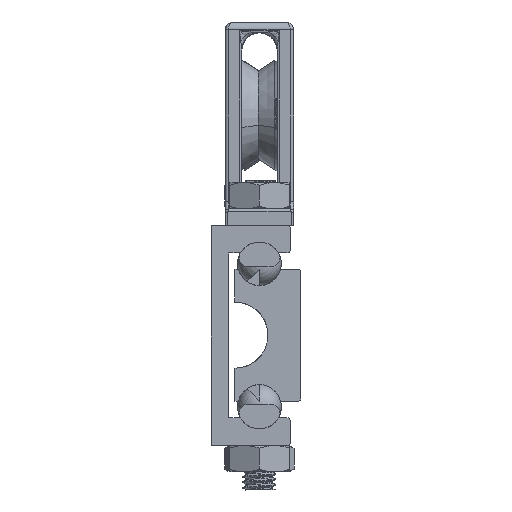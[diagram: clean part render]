
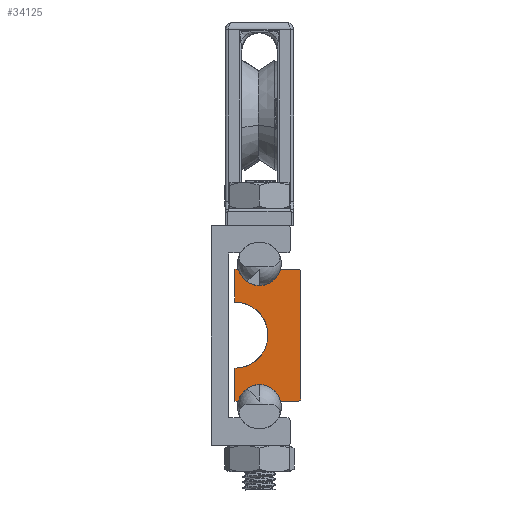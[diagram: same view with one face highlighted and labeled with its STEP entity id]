
A CAD part, front view. The second image highlights one B-rep face of the part: STEP entity #34125.
In plain terms, the highlighted planar face has unit normal (0, -1, 0) as drawn and (0, 1, 0) by its records, which use the part's own axes.
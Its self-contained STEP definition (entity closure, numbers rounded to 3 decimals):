
#706 = VECTOR ( 'NONE', #43261, 1000. ) ;
#732 = DIRECTION ( 'NONE',  ( -1., 0., 0. ) ) ;
#939 = CARTESIAN_POINT ( 'NONE',  ( -3., 304.8, 6. ) ) ;
#957 = CARTESIAN_POINT ( 'NONE',  ( 6., 304.8, 1.854 ) ) ;
#1705 = VERTEX_POINT ( 'NONE', #23211 ) ;
#2229 = CARTESIAN_POINT ( 'NONE',  ( -5.8, 304.8, 0. ) ) ;
#2305 = DIRECTION ( 'NONE',  ( 0., 0., 1. ) ) ;
#2549 = CIRCLE ( 'NONE', #28258, 3. ) ;
#2756 = CARTESIAN_POINT ( 'NONE',  ( 6.485, 304.8, 3.778 ) ) ;
#2773 = CARTESIAN_POINT ( 'NONE',  ( 6., 304.8, 5.703 ) ) ;
#3142 = VERTEX_POINT ( 'NONE', #40833 ) ;
#3183 = LINE ( 'NONE', #31460, #7467 ) ;
#4033 = ORIENTED_EDGE ( 'NONE', *, *, #22704, .F. ) ;
#4367 = AXIS2_PLACEMENT_3D ( 'NONE', #36214, #25872, #39673 ) ;
#4553 = LINE ( 'NONE', #22024, #8724 ) ;
#4750 = EDGE_CURVE ( 'NONE', #19452, #43478, #2549, .T. ) ;
#5337 = CARTESIAN_POINT ( 'NONE',  ( 5.8, 304.8, 0. ) ) ;
#6212 = CIRCLE ( 'NONE', #14301, 3. ) ;
#7261 = LINE ( 'NONE', #17592, #17168 ) ;
#7467 = VECTOR ( 'NONE', #24548, 1000. ) ;
#7931 = DIRECTION ( 'NONE',  ( 1., 0., 0. ) ) ;
#8383 = AXIS2_PLACEMENT_3D ( 'NONE', #15607, #11472, #39536 ) ;
#8724 = VECTOR ( 'NONE', #39040, 1000. ) ;
#8778 = ORIENTED_EDGE ( 'NONE', *, *, #18250, .T. ) ;
#9566 = CARTESIAN_POINT ( 'NONE',  ( 3., 304.8, 6. ) ) ;
#9648 = DIRECTION ( 'NONE',  ( 0., 0., 1. ) ) ;
#9651 = CARTESIAN_POINT ( 'NONE',  ( 6., 304.8, 0. ) ) ;
#9712 = VERTEX_POINT ( 'NONE', #44625 ) ;
#9790 = VERTEX_POINT ( 'NONE', #2773 ) ;
#9850 = CIRCLE ( 'NONE', #8383, 0.2 ) ;
#10586 = DIRECTION ( 'NONE',  ( 0., 0., 1. ) ) ;
#10620 = ORIENTED_EDGE ( 'NONE', *, *, #19269, .F. ) ;
#11472 = DIRECTION ( 'NONE',  ( 0., 1., 0. ) ) ;
#12567 = EDGE_CURVE ( 'NONE', #44413, #3142, #32225, .T. ) ;
#12975 = DIRECTION ( 'NONE',  ( 0., 1., 0. ) ) ;
#13397 = ORIENTED_EDGE ( 'NONE', *, *, #17964, .F. ) ;
#13781 = LINE ( 'NONE', #14237, #24786 ) ;
#13985 = CARTESIAN_POINT ( 'NONE',  ( -6.484, 304.8, 3.778 ) ) ;
#13998 = FACE_OUTER_BOUND ( 'NONE', #15461, .T. ) ;
#14237 = CARTESIAN_POINT ( 'NONE',  ( 6., 304.8, 5.703 ) ) ;
#14301 = AXIS2_PLACEMENT_3D ( 'NONE', #16622, #44233, #41242 ) ;
#14503 = VERTEX_POINT ( 'NONE', #45093 ) ;
#14966 = LINE ( 'NONE', #36118, #706 ) ;
#15097 = ORIENTED_EDGE ( 'NONE', *, *, #4750, .F. ) ;
#15461 = EDGE_LOOP ( 'NONE', ( #24275, #8778, #29617, #41658, #10620, #34335, #41085, #15097, #25630, #30173, #13397, #4033, #35007 ) ) ;
#15607 = CARTESIAN_POINT ( 'NONE',  ( 5.8, 304.8, 0.2 ) ) ;
#16622 = CARTESIAN_POINT ( 'NONE',  ( 0., 304.8, 6. ) ) ;
#16766 = PLANE ( 'NONE',  #25527 ) ;
#17168 = VECTOR ( 'NONE', #7931, 1000. ) ;
#17592 = CARTESIAN_POINT ( 'NONE',  ( -6., 304.8, 0. ) ) ;
#17667 = DIRECTION ( 'NONE',  ( 0., 1., 0. ) ) ;
#17964 = EDGE_CURVE ( 'NONE', #32445, #9790, #38880, .T. ) ;
#18250 = EDGE_CURVE ( 'NONE', #29479, #14503, #27871, .T. ) ;
#18309 = AXIS2_PLACEMENT_3D ( 'NONE', #37718, #42113, #10586 ) ;
#19269 = EDGE_CURVE ( 'NONE', #3142, #33176, #3183, .T. ) ;
#19452 = VERTEX_POINT ( 'NONE', #9566 ) ;
#20671 = VERTEX_POINT ( 'NONE', #5337 ) ;
#21115 = VECTOR ( 'NONE', #2305, 1000. ) ;
#21373 = DIRECTION ( 'NONE',  ( 0., 0., 1. ) ) ;
#22024 = CARTESIAN_POINT ( 'NONE',  ( -6., 304.8, 1.854 ) ) ;
#22704 = EDGE_CURVE ( 'NONE', #1705, #32445, #40700, .T. ) ;
#23001 = EDGE_CURVE ( 'NONE', #9790, #40478, #13781, .T. ) ;
#23211 = CARTESIAN_POINT ( 'NONE',  ( 6., 304.8, 0.2 ) ) ;
#24275 = ORIENTED_EDGE ( 'NONE', *, *, #40731, .F. ) ;
#24548 = DIRECTION ( 'NONE',  ( 0., 0., -1. ) ) ;
#24786 = VECTOR ( 'NONE', #21373, 1000. ) ;
#25527 = AXIS2_PLACEMENT_3D ( 'NONE', #2756, #27118, #9648 ) ;
#25630 = ORIENTED_EDGE ( 'NONE', *, *, #28042, .F. ) ;
#25872 = DIRECTION ( 'NONE',  ( 0., 1., 0. ) ) ;
#27021 = DIRECTION ( 'NONE',  ( 0., 0., 1. ) ) ;
#27118 = DIRECTION ( 'NONE',  ( 0., 1., 0. ) ) ;
#27871 = CIRCLE ( 'NONE', #4367, 0.2 ) ;
#28042 = EDGE_CURVE ( 'NONE', #40478, #19452, #14966, .T. ) ;
#28258 = AXIS2_PLACEMENT_3D ( 'NONE', #37357, #12975, #27021 ) ;
#28759 = CARTESIAN_POINT ( 'NONE',  ( -3., 304.8, 6. ) ) ;
#29479 = VERTEX_POINT ( 'NONE', #2229 ) ;
#29617 = ORIENTED_EDGE ( 'NONE', *, *, #37957, .F. ) ;
#29664 = EDGE_CURVE ( 'NONE', #33176, #9712, #33023, .T. ) ;
#30173 = ORIENTED_EDGE ( 'NONE', *, *, #23001, .F. ) ;
#31460 = CARTESIAN_POINT ( 'NONE',  ( -6., 304.8, 6. ) ) ;
#32225 = LINE ( 'NONE', #28759, #39499 ) ;
#32445 = VERTEX_POINT ( 'NONE', #957 ) ;
#33023 = CIRCLE ( 'NONE', #42581, 1.984 ) ;
#33176 = VERTEX_POINT ( 'NONE', #39971 ) ;
#34125 = ADVANCED_FACE ( 'NONE', ( #13998 ), #16766, .T. ) ;
#34335 = ORIENTED_EDGE ( 'NONE', *, *, #12567, .F. ) ;
#35007 = ORIENTED_EDGE ( 'NONE', *, *, #43687, .T. ) ;
#35810 = DIRECTION ( 'NONE',  ( 0., 0., 1. ) ) ;
#36118 = CARTESIAN_POINT ( 'NONE',  ( 6., 304.8, 6. ) ) ;
#36214 = CARTESIAN_POINT ( 'NONE',  ( -5.8, 304.8, 0.2 ) ) ;
#37357 = CARTESIAN_POINT ( 'NONE',  ( 0., 304.8, 6. ) ) ;
#37576 = CARTESIAN_POINT ( 'NONE',  ( 6., 304.8, 6. ) ) ;
#37718 = CARTESIAN_POINT ( 'NONE',  ( 6.485, 304.8, 3.778 ) ) ;
#37957 = EDGE_CURVE ( 'NONE', #9712, #14503, #4553, .T. ) ;
#38170 = CARTESIAN_POINT ( 'NONE',  ( 0., 304.8, 3. ) ) ;
#38880 = CIRCLE ( 'NONE', #18309, 1.984 ) ;
#39040 = DIRECTION ( 'NONE',  ( 0., 0., -1. ) ) ;
#39499 = VECTOR ( 'NONE', #732, 1000. ) ;
#39536 = DIRECTION ( 'NONE',  ( 0., 0., 1. ) ) ;
#39673 = DIRECTION ( 'NONE',  ( 0., 0., 1. ) ) ;
#39971 = CARTESIAN_POINT ( 'NONE',  ( -6., 304.8, 5.703 ) ) ;
#40478 = VERTEX_POINT ( 'NONE', #37576 ) ;
#40700 = LINE ( 'NONE', #9651, #21115 ) ;
#40731 = EDGE_CURVE ( 'NONE', #29479, #20671, #7261, .T. ) ;
#40833 = CARTESIAN_POINT ( 'NONE',  ( -6., 304.8, 6. ) ) ;
#41085 = ORIENTED_EDGE ( 'NONE', *, *, #44097, .F. ) ;
#41242 = DIRECTION ( 'NONE',  ( 0., 0., 1. ) ) ;
#41658 = ORIENTED_EDGE ( 'NONE', *, *, #29664, .F. ) ;
#42113 = DIRECTION ( 'NONE',  ( 0., 1., 0. ) ) ;
#42581 = AXIS2_PLACEMENT_3D ( 'NONE', #13985, #17667, #35810 ) ;
#43261 = DIRECTION ( 'NONE',  ( -1., 0., 0. ) ) ;
#43478 = VERTEX_POINT ( 'NONE', #38170 ) ;
#43687 = EDGE_CURVE ( 'NONE', #1705, #20671, #9850, .T. ) ;
#44097 = EDGE_CURVE ( 'NONE', #43478, #44413, #6212, .T. ) ;
#44233 = DIRECTION ( 'NONE',  ( 0., 1., 0. ) ) ;
#44413 = VERTEX_POINT ( 'NONE', #939 ) ;
#44625 = CARTESIAN_POINT ( 'NONE',  ( -6., 304.8, 1.854 ) ) ;
#45093 = CARTESIAN_POINT ( 'NONE',  ( -6., 304.8, 0.2 ) ) ;
